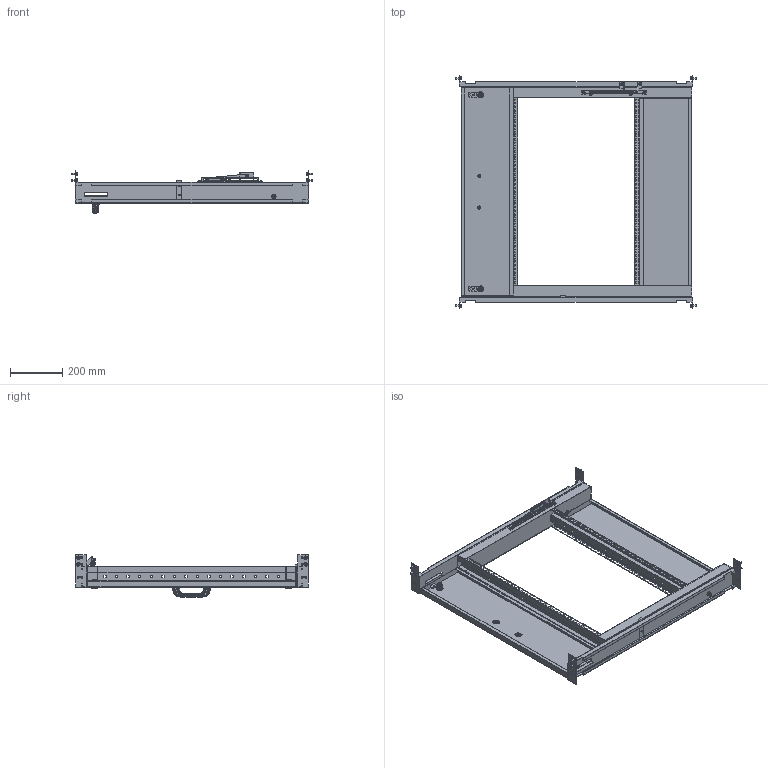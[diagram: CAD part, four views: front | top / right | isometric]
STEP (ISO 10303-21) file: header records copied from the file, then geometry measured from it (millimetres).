
FILE_DESCRIPTION(('Open CASCADE Model'),'2;1');
FILE_NAME('Open CASCADE Shape Model','2025-03-24T10:15:43',('Author'),( 'Open CASCADE'),'Open CASCADE STEP processor 7.8','Open CASCADE 7.8' ,'Unknown');
FILE_SCHEMA(('AUTOMOTIVE_DESIGN { 1 0 10303 214 1 1 1 1 }'));
Length unit declared in the file: millimetre
Products named in the file (35): Compound1; Compound2; Solid1; Solid2; Compound3; Solid3; Solid4; Solid5; Solid6; Solid7; Solid8; Solid9; Solid10; Solid11; Solid12; Solid13; Solid14; Solid15; Solid16; Solid17; Compound4; Solid18; Solid19; Solid20; Solid21; Compound5; Solid22; Solid23; Solid24; Solid25; Solid26; Solid27; Solid28; Solid29; Solid30
Assembly tree (53 placements, depth 3):
  Compound1
    Compound2
      Solid1
      Solid2
    Compound3
      Solid3
      Solid2
    Solid4  x2
    Solid5  x2
    Solid6
    Solid7
    Solid8
    Solid9
    Solid10
    Solid11  x2
    Solid12  x4
    Solid13  x8
    Solid14
    Solid15
    Solid16  x2
    Solid17  x2
    Compound4
      Solid18
      Solid19
    Solid20
    Solid21
    Compound5
      Solid22
      Solid23
      Solid24  x2
      Solid25
      Solid26  x2
      Solid27
      Solid28  x2
      Solid29
      Solid30
Bounding box: 926 x 894.5 x 165 mm (x, y, z)
Volume: 1914690.2 mm3; surface area: 2539226.7 mm2
Topology: 50 solids, 69 shells, 4597 faces, 12558 edges, 8057 vertices
Faces by surface type: plane 2508, cylinder 726, bspline 670, cone 439, torus 176, sphere 78
Entity records: 138710 total; most frequent: CARTESIAN_POINT 50835, ORIENTED_EDGE 19338, DIRECTION 15778, EDGE_CURVE 9842, VERTEX_POINT 6351, LINE 6324, VECTOR 6324, AXIS2_PLACEMENT_3D 4727
